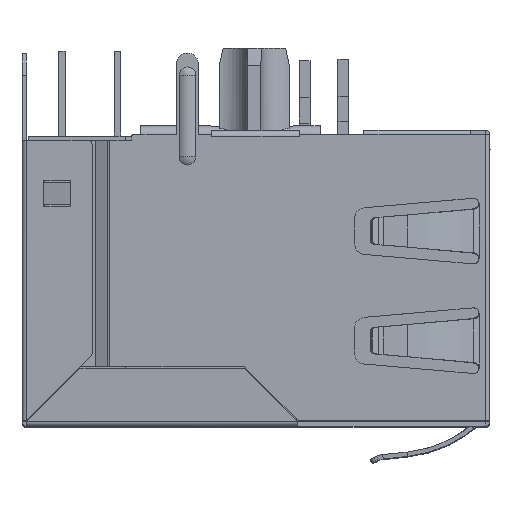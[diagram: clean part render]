
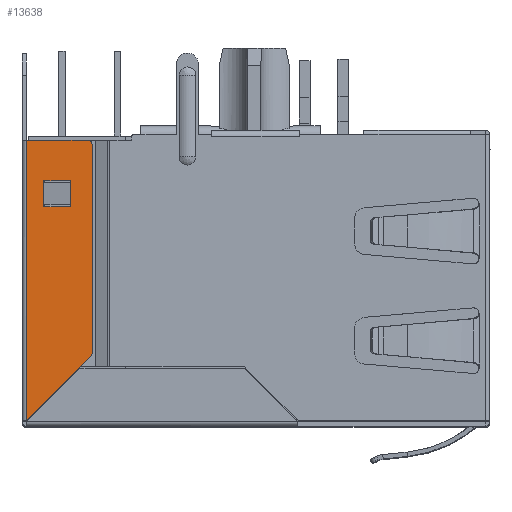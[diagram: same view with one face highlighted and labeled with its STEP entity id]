
A CAD part, top view. The second image highlights one B-rep face of the part: STEP entity #13638.
In plain terms, the highlighted planar face has unit normal (0, 0, 1).
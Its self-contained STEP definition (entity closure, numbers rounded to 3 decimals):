
#6267 = B_SPLINE_CURVE_WITH_KNOTS ( 'NONE', 3,
 ( #48585, #47816, #47221, #48395, #47259, #46794, #48914, #48911 ),
 .UNSPECIFIED., .F., .F.,
 ( 4, 2, 2, 4 ),
 ( 0., 0.5, 0.75, 1. ),
 .UNSPECIFIED. ) ;
#8563 = EDGE_CURVE ( 'NONE', #19727, #19632, #6267, .T. ) ;
#8624 = EDGE_CURVE ( 'NONE', #19751, #19786, #40458, .T. ) ;
#8653 = EDGE_CURVE ( 'NONE', #19757, #19738, #40504, .T. ) ;
#8665 = EDGE_CURVE ( 'NONE', #19790, #19751, #40516, .T. ) ;
#8668 = EDGE_CURVE ( 'NONE', #19739, #19790, #40524, .T. ) ;
#8700 = EDGE_CURVE ( 'NONE', #19786, #19739, #40569, .T. ) ;
#8712 = EDGE_CURVE ( 'NONE', #19738, #19729, #40584, .T. ) ;
#8716 = EDGE_CURVE ( 'NONE', #19632, #19757, #40596, .T. ) ;
#8748 = EDGE_CURVE ( 'NONE', #19726, #19727, #40642, .T. ) ;
#13638 = ADVANCED_FACE ( 'NONE', ( #71490, #71497 ), #73269, .T. ) ;
#19632 = VERTEX_POINT ( 'NONE', #23846 ) ;
#19726 = VERTEX_POINT ( 'NONE', #24003 ) ;
#19727 = VERTEX_POINT ( 'NONE', #24005 ) ;
#19729 = VERTEX_POINT ( 'NONE', #24008 ) ;
#19738 = VERTEX_POINT ( 'NONE', #24023 ) ;
#19739 = VERTEX_POINT ( 'NONE', #24025 ) ;
#19751 = VERTEX_POINT ( 'NONE', #24038 ) ;
#19757 = VERTEX_POINT ( 'NONE', #24044 ) ;
#19786 = VERTEX_POINT ( 'NONE', #24073 ) ;
#19790 = VERTEX_POINT ( 'NONE', #24077 ) ;
#23846 = CARTESIAN_POINT ( 'NONE',  ( -18.075, 12.75, 1.65 ) ) ;
#24003 = CARTESIAN_POINT ( 'NONE',  ( -17.85, 3.012, 1.65 ) ) ;
#24005 = CARTESIAN_POINT ( 'NONE',  ( -17.85, 12.525, 1.65 ) ) ;
#24008 = CARTESIAN_POINT ( 'NONE',  ( -17.879, 2.941, 1.65 ) ) ;
#24023 = CARTESIAN_POINT ( 'NONE',  ( -20.85, -0.029, 1.65 ) ) ;
#24025 = CARTESIAN_POINT ( 'NONE',  ( -20.05, 10.9, 1.65 ) ) ;
#24038 = CARTESIAN_POINT ( 'NONE',  ( -18.85, 9.7, 1.65 ) ) ;
#24044 = CARTESIAN_POINT ( 'NONE',  ( -20.85, 12.75, 1.65 ) ) ;
#24073 = CARTESIAN_POINT ( 'NONE',  ( -18.85, 10.9, 1.65 ) ) ;
#24077 = CARTESIAN_POINT ( 'NONE',  ( -20.05, 9.7, 1.65 ) ) ;
#28630 = EDGE_CURVE ( 'NONE', #19729, #19726, #74717, .T. ) ;
#35506 = EDGE_LOOP ( 'NONE', ( #66783, #66784, #66806, #66759, #66767, #66791 ) ) ;
#37853 = EDGE_LOOP ( 'NONE', ( #66811, #66788, #66801, #66749 ) ) ;
#40458 = LINE ( 'NONE', #46695, #40460 ) ;
#40460 = VECTOR ( 'NONE', #47477, 1000. ) ;
#40504 = LINE ( 'NONE', #48763, #40507 ) ;
#40507 = VECTOR ( 'NONE', #47489, 1000. ) ;
#40516 = LINE ( 'NONE', #47188, #40518 ) ;
#40518 = VECTOR ( 'NONE', #48768, 1000. ) ;
#40524 = LINE ( 'NONE', #47860, #40525 ) ;
#40525 = VECTOR ( 'NONE', #48692, 1000. ) ;
#40569 = LINE ( 'NONE', #47601, #40571 ) ;
#40571 = VECTOR ( 'NONE', #48741, 1000. ) ;
#40584 = LINE ( 'NONE', #48294, #40591 ) ;
#40591 = VECTOR ( 'NONE', #48828, 1000. ) ;
#40596 = LINE ( 'NONE', #48411, #40599 ) ;
#40599 = VECTOR ( 'NONE', #48832, 1000. ) ;
#40642 = LINE ( 'NONE', #48688, #40645 ) ;
#40645 = VECTOR ( 'NONE', #48230, 1000. ) ;
#46695 = CARTESIAN_POINT ( 'NONE',  ( -18.85, 10.3, 1.65 ) ) ;
#46794 = CARTESIAN_POINT ( 'NONE',  ( -18.015, 12.744, 1.65 ) ) ;
#47188 = CARTESIAN_POINT ( 'NONE',  ( -19.45, 9.7, 1.65 ) ) ;
#47221 = CARTESIAN_POINT ( 'NONE',  ( -17.875, 12.643, 1.65 ) ) ;
#47259 = CARTESIAN_POINT ( 'NONE',  ( -17.962, 12.722, 1.65 ) ) ;
#47477 = DIRECTION ( 'NONE',  ( 0., 1., 0. ) ) ;
#47489 = DIRECTION ( 'NONE',  ( 0., -1., 0. ) ) ;
#47601 = CARTESIAN_POINT ( 'NONE',  ( -19.45, 10.9, 1.65 ) ) ;
#47816 = CARTESIAN_POINT ( 'NONE',  ( -17.851, 12.585, 1.65 ) ) ;
#47860 = CARTESIAN_POINT ( 'NONE',  ( -20.05, 10.3, 1.65 ) ) ;
#48230 = DIRECTION ( 'NONE',  ( 0., 1., 0. ) ) ;
#48294 = CARTESIAN_POINT ( 'NONE',  ( -19.365, 1.456, 1.65 ) ) ;
#48395 = CARTESIAN_POINT ( 'NONE',  ( -17.936, 12.705, 1.65 ) ) ;
#48411 = CARTESIAN_POINT ( 'NONE',  ( -19.463, 12.75, 1.65 ) ) ;
#48585 = CARTESIAN_POINT ( 'NONE',  ( -17.85, 12.525, 1.65 ) ) ;
#48688 = CARTESIAN_POINT ( 'NONE',  ( -17.85, 7.769, 1.65 ) ) ;
#48692 = DIRECTION ( 'NONE',  ( 0., -1., 0. ) ) ;
#48741 = DIRECTION ( 'NONE',  ( -1., 0., 0. ) ) ;
#48763 = CARTESIAN_POINT ( 'NONE',  ( -20.85, 6.36, 1.65 ) ) ;
#48768 = DIRECTION ( 'NONE',  ( 1., 0., 0. ) ) ;
#48828 = DIRECTION ( 'NONE',  ( 0.707, 0.707, 0. ) ) ;
#48832 = DIRECTION ( 'NONE',  ( -1., 0., 0. ) ) ;
#48911 = CARTESIAN_POINT ( 'NONE',  ( -18.075, 12.75, 1.65 ) ) ;
#48914 = CARTESIAN_POINT ( 'NONE',  ( -18.044, 12.75, 1.65 ) ) ;
#54574 = CARTESIAN_POINT ( 'NONE',  ( -17.86, 2.961, 1.65 ) ) ;
#54576 = CARTESIAN_POINT ( 'NONE',  ( -17.879, 2.941, 1.65 ) ) ;
#54612 = CARTESIAN_POINT ( 'NONE',  ( -17.85, 2.985, 1.65 ) ) ;
#54614 = CARTESIAN_POINT ( 'NONE',  ( -17.85, 3.012, 1.65 ) ) ;
#66749 = ORIENTED_EDGE ( 'NONE', *, *, #8700, .F. ) ;
#66759 = ORIENTED_EDGE ( 'NONE', *, *, #8748, .T. ) ;
#66767 = ORIENTED_EDGE ( 'NONE', *, *, #8563, .T. ) ;
#66783 = ORIENTED_EDGE ( 'NONE', *, *, #8653, .T. ) ;
#66784 = ORIENTED_EDGE ( 'NONE', *, *, #8712, .T. ) ;
#66788 = ORIENTED_EDGE ( 'NONE', *, *, #8665, .F. ) ;
#66791 = ORIENTED_EDGE ( 'NONE', *, *, #8716, .T. ) ;
#66801 = ORIENTED_EDGE ( 'NONE', *, *, #8668, .F. ) ;
#66806 = ORIENTED_EDGE ( 'NONE', *, *, #28630, .T. ) ;
#66811 = ORIENTED_EDGE ( 'NONE', *, *, #8624, .F. ) ;
#70352 = AXIS2_PLACEMENT_3D ( 'NONE', #73276, #73277, #73278 ) ;
#71490 = FACE_BOUND ( 'NONE', #37853, .T. ) ;
#71497 = FACE_OUTER_BOUND ( 'NONE', #35506, .T. ) ;
#73269 = PLANE ( 'NONE',  #70352 ) ;
#73276 = CARTESIAN_POINT ( 'NONE',  ( -17.744, -0.285, 1.65 ) ) ;
#73277 = DIRECTION ( 'NONE',  ( 0., 0., 1. ) ) ;
#73278 = DIRECTION ( 'NONE',  ( 0., 1., 0. ) ) ;
#74717 = B_SPLINE_CURVE_WITH_KNOTS ( 'NONE', 3,
 ( #54576, #54574, #54612, #54614 ),
 .UNSPECIFIED., .F., .F.,
 ( 4, 4 ),
 ( 0., 1. ),
 .UNSPECIFIED. ) ;
